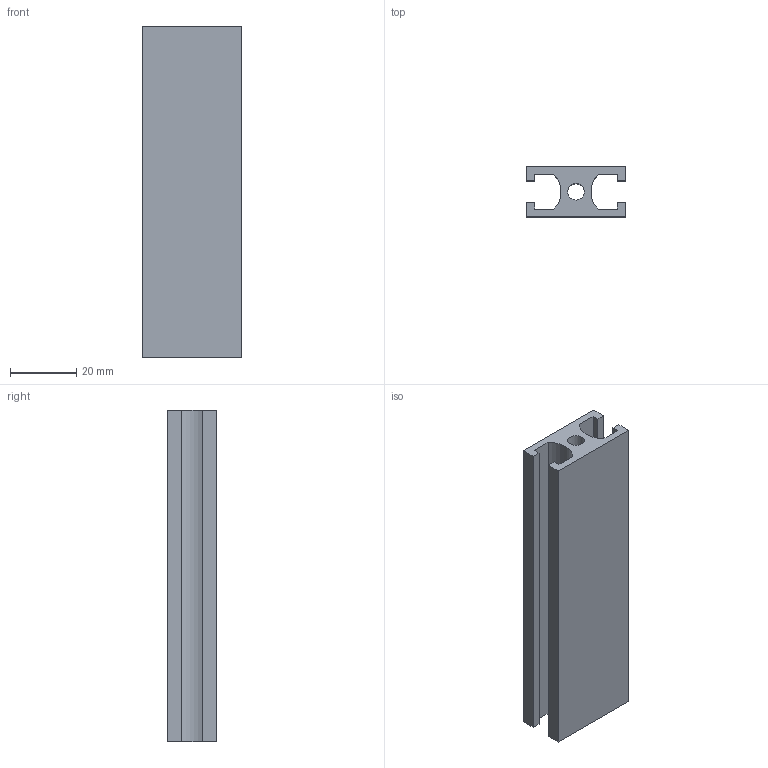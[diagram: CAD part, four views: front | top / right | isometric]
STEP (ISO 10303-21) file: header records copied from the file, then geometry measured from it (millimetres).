
FILE_DESCRIPTION(/* description */ ('Unknown'),/* implementation_level */ '2;1');
FILE_NAME(/* name */ 'NM1530',/* time_stamp */ '2026-08-31T11:10:17+08:00',/* author */ ('Unknown'),/* organization */ ('Unknown'),/* preprocessor_version */ 'ST-DEVELOPER v16.7',/* originating_system */ 'DEX',/* authorisation */ $);
FILE_SCHEMA (('AUTOMOTIVE_DESIGN {1 0 10303 214 3 1 1}'));
Length unit declared in the file: millimetre
Products named in the file (1): 1530-M4-
Bounding box: 30 x 15 x 100 mm (x, y, z)
Volume: 24389.4 mm3; surface area: 16227.2 mm2
Topology: 1 solids, 1 shells, 23 faces, 63 edges, 42 vertices
Faces by surface type: plane 20, cylinder 3
Full cylindrical faces by diameter (mm): 5 x1
Entity records: 752 total; most frequent: CARTESIAN_POINT 128, ORIENTED_EDGE 124, DIRECTION 116, EDGE_CURVE 62, LINE 56, VECTOR 56, VERTEX_POINT 42, AXIS2_PLACEMENT_3D 30
